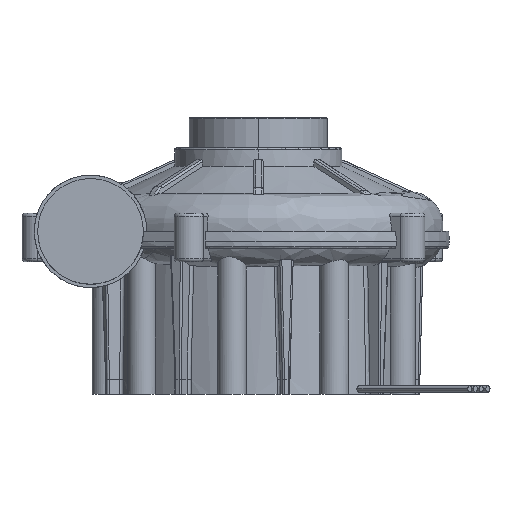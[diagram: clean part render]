
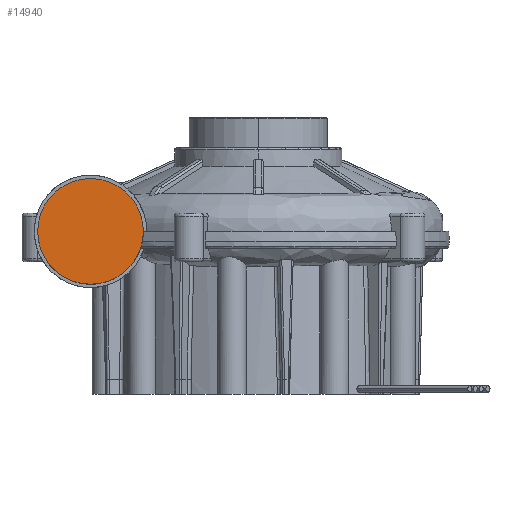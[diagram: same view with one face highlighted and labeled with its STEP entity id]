
A CAD part, front view. The second image highlights one B-rep face of the part: STEP entity #14940.
In plain terms, the highlighted planar face has unit normal (0, -1, 0).
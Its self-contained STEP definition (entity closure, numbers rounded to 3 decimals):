
#115=CARTESIAN_POINT('',(-27.597,-29.,13.89));
#116=DIRECTION('',(0.,1.,0.));
#117=DIRECTION('',(1.,0.,0.));
#118=AXIS2_PLACEMENT_3D('',#115,#116,#117);
#124=CARTESIAN_POINT('',(-27.597,-29.,13.89));
#125=DIRECTION('',(0.,1.,0.));
#126=DIRECTION('',(-1.,0.,0.));
#127=AXIS2_PLACEMENT_3D('',#124,#125,#126);
#14854=CARTESIAN_POINT('',(-18.897,-29.,13.89));
#14855=VERTEX_POINT('',#14854);
#14857=CARTESIAN_POINT('',(-36.297,-29.,13.89));
#14859=VERTEX_POINT('',#14857);
#14929=CARTESIAN_POINT('',(-27.879,-29.,
2.937));
#14930=DIRECTION('',(0.,1.,0.));
#14931=DIRECTION('',(0.,0.,1.));
#14932=AXIS2_PLACEMENT_3D('',#14929,#14930,#14931);
#14933=PLANE('',#14932);
#14935=ORIENTED_EDGE('',*,*,#14934,.T.);
#14937=ORIENTED_EDGE('',*,*,#14936,.T.);
#14938=EDGE_LOOP('',(#14935,#14937));
#14939=FACE_OUTER_BOUND('',#14938,.F.);
#14940=ADVANCED_FACE('',(#14939),#14933,.F.);
#119=CIRCLE('',#118,8.7);
#128=CIRCLE('',#127,8.7);
#14934=EDGE_CURVE('',#14855,#14859,#119,.T.);
#14936=EDGE_CURVE('',#14859,#14855,#128,.T.);
